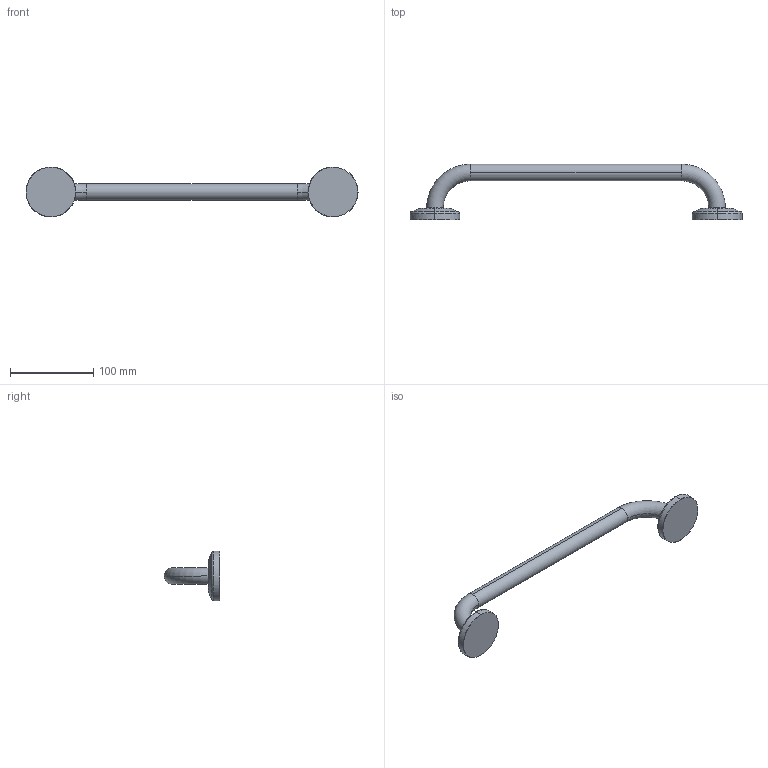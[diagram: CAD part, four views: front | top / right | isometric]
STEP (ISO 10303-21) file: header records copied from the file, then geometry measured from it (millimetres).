
FILE_DESCRIPTION(('THIS FILE CONTAINS SOME STEP INSTANCES'),'1');
FILE_NAME('sta_030.stp','2015-12-01T11:18:56',('UNDEFINED'),('UNDEFINED'),'T-FLEX CAD STEP converter','T-FLEX CAD','');
FILE_SCHEMA(('CONFIG_CONTROL_DESIGN'));
Length unit declared in the file: metre
Products named in the file (1): 3D 鐨飹懤艜_21
Bounding box: 400 x 67 x 60 mm (x, y, z)
Volume: 191762 mm3; surface area: 38656.9 mm2
Topology: 1 solids, 1 shells, 34 faces, 74 edges, 44 vertices
Faces by surface type: torus 12, cone 8, cylinder 6, bspline 4, plane 4
Entity records: 2700 total; most frequent: CARTESIAN_POINT 2071, ORIENTED_EDGE 148, DIRECTION 102, EDGE_CURVE 74, AXIS2_PLACEMENT_3D 44, VERTEX_POINT 44, EDGE_LOOP 36, ADVANCED_FACE 34
